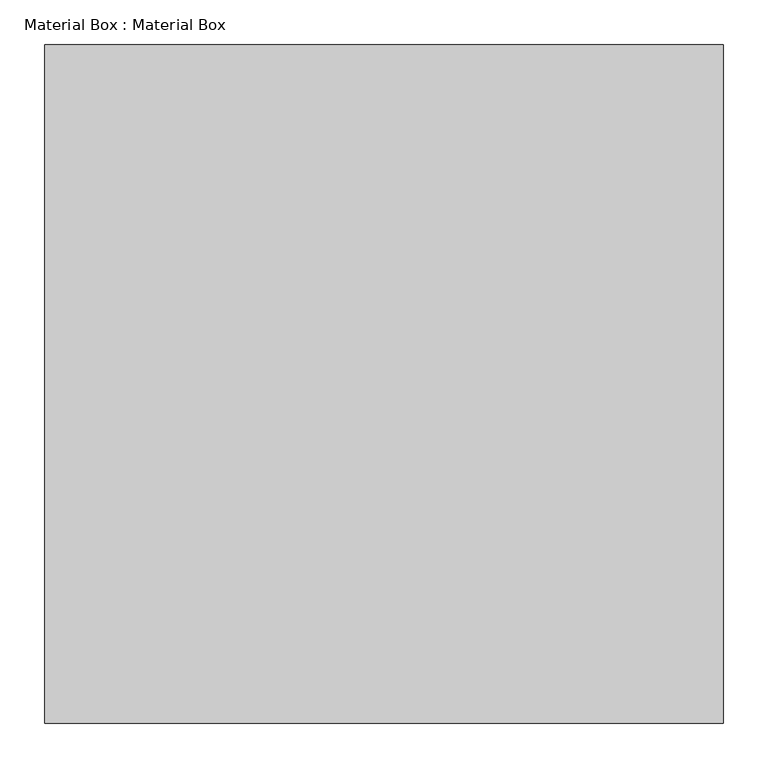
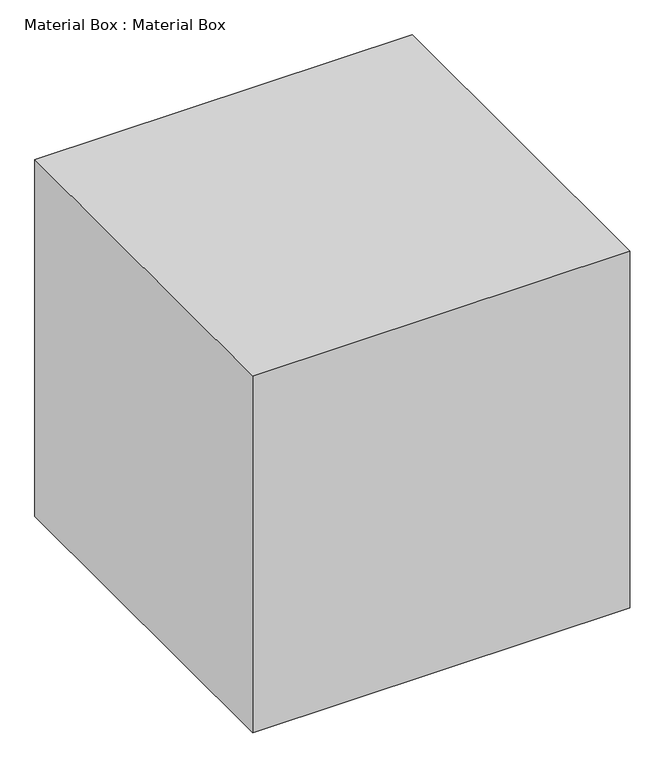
"""IFC4 building model written with IfcOpenShell, lengths in millimetres: proxy geometry, Material Box : Material Box."""

from ifc_helpers import new_model, si_unit, origin, origin_with_axes, place, context, project, spatial, polyline, outline, extrude, source, transform, mapped, element, save


def material_box_material_box_61bd0c43(model_context):
    return source(origin(), model_context, "Body", "SweptSolid", [
        extrude(outline(polyline([(381.0, 381.0), (381.0, -381.0), (-381.0, -381.0), (-381.0, 381.0), (381.0, 381.0)])), origin_with_axes(), (0.0, 0.0, 1.0), 762.0),
    ])


if __name__ == "__main__":
    model = new_model("IFC4")
    model_context = context("Model", 3, world=origin())
    ifc_project = project(units=[si_unit("LENGTHUNIT", "METRE", prefix="MILLI")], contexts=[model_context])
    site = spatial("IfcSite", under=ifc_project)
    building = spatial("IfcBuilding", under=site)
    placement = place(None, origin())
    material_box_material_box_shape = material_box_material_box_61bd0c43(model_context)
    element("IfcBuildingElementProxy", 1, Name="Material Box : Material Box", ObjectType="Material Box : Material Box", at=placement, inside=building, context=model_context, shape_type="MappedRepresentation", body=[
        mapped(material_box_material_box_shape, transform((0.0, 0.0, 0.0), x_axis=(1.0, 0.0, 0.0), y_axis=(0.0, 1.0, 0.0), z_axis=(0.0, 0.0, 1.0))),
    ])
    save(model, "model.ifc")
